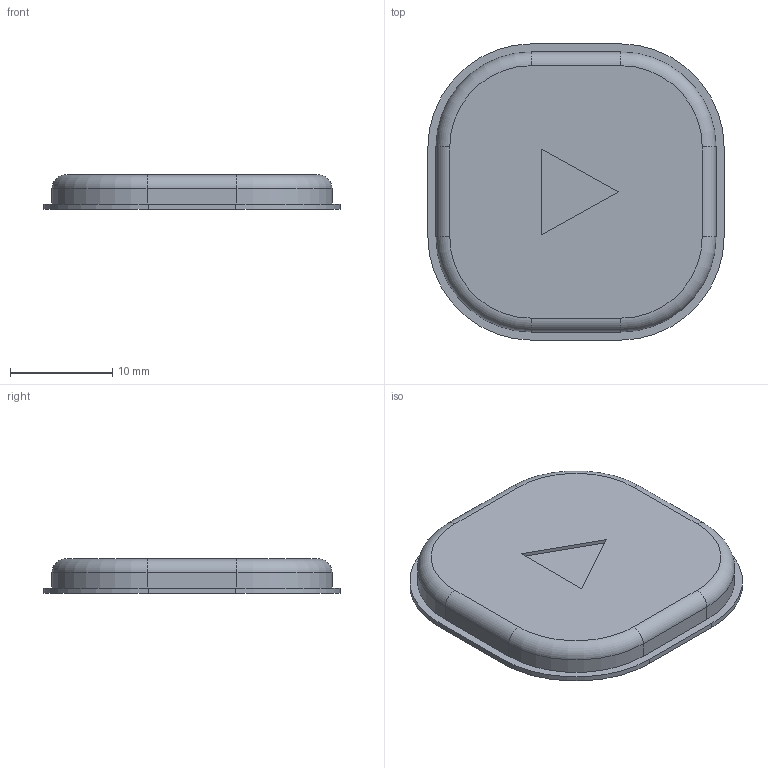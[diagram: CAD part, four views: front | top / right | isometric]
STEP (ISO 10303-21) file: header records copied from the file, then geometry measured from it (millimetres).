
FILE_DESCRIPTION(('Open CASCADE Model'),'2;1');
FILE_NAME('Open CASCADE Shape Model','2026-09-08T12:38:13',('Author'),( 'Open CASCADE'),'Open CASCADE STEP processor 7.7','Open CASCADE 7.7' ,'Unknown');
FILE_SCHEMA(('AUTOMOTIVE_DESIGN { 1 0 10303 214 1 1 1 1 }'));
Length unit declared in the file: millimetre
Products named in the file (1): Open CASCADE STEP translator 7.7 5
Bounding box: 29 x 29 x 3.35 mm (x, y, z)
Volume: 2056.4 mm3; surface area: 1810.7 mm2
Topology: 1 solids, 1 shells, 42 faces, 100 edges, 64 vertices
Faces by surface type: plane 21, cylinder 17, torus 4
Full cylindrical faces by diameter (mm): 5 x1
Entity records: 2555 total; most frequent: CARTESIAN_POINT 461, DIRECTION 415, LINE 236, VECTOR 236, ORIENTED_EDGE 200, PCURVE 200, DEFINITIONAL_REPRESENTATION 200, EDGE_CURVE 100
